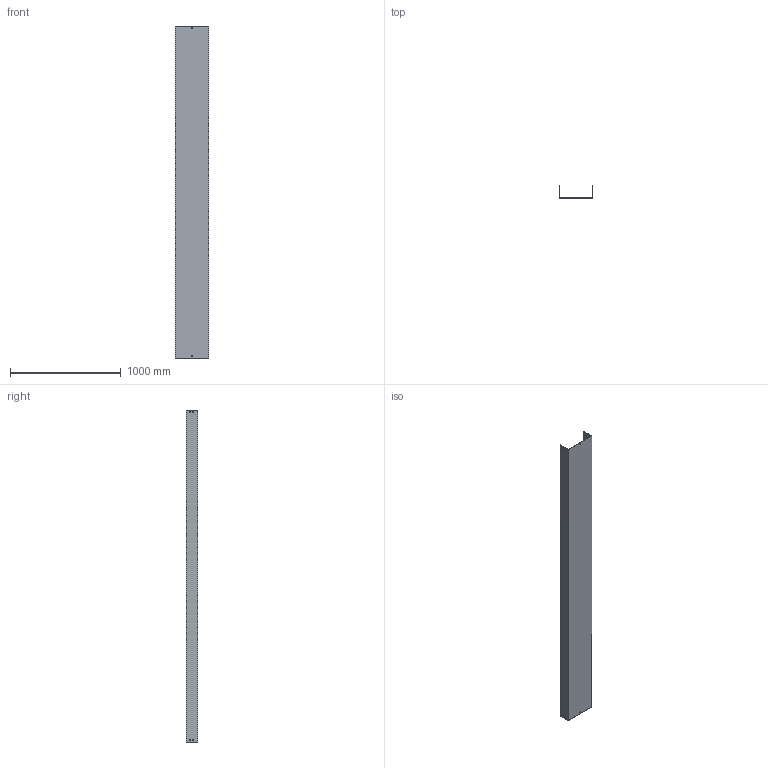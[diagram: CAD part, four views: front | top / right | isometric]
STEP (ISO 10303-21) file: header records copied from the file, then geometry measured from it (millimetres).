
FILE_DESCRIPTION (( 'STEP AP214' ), '1' );
FILE_NAME ('03B3D300.step', '2025-02-21T10:04:09', ( '' ), ( '' ), 'SwSTEP 2.0', 'SolidWorks 2023', '' );
FILE_SCHEMA (( 'AUTOMOTIVE_DESIGN' ));
Length unit declared in the file: millimetre
Products named in the file (1): 03B3D300
Bounding box: 304 x 104 x 3000 mm (x, y, z)
Volume: 5300130.5 mm3; surface area: 3054350 mm2
Topology: 1 solids, 1 shells, 50 faces, 144 edges, 96 vertices
Faces by surface type: plane 50
Entity records: 1671 total; most frequent: CARTESIAN_POINT 291, ORIENTED_EDGE 288, DIRECTION 246, EDGE_CURVE 144, VECTOR 144, LINE 144, VERTEX_POINT 96, EDGE_LOOP 70
